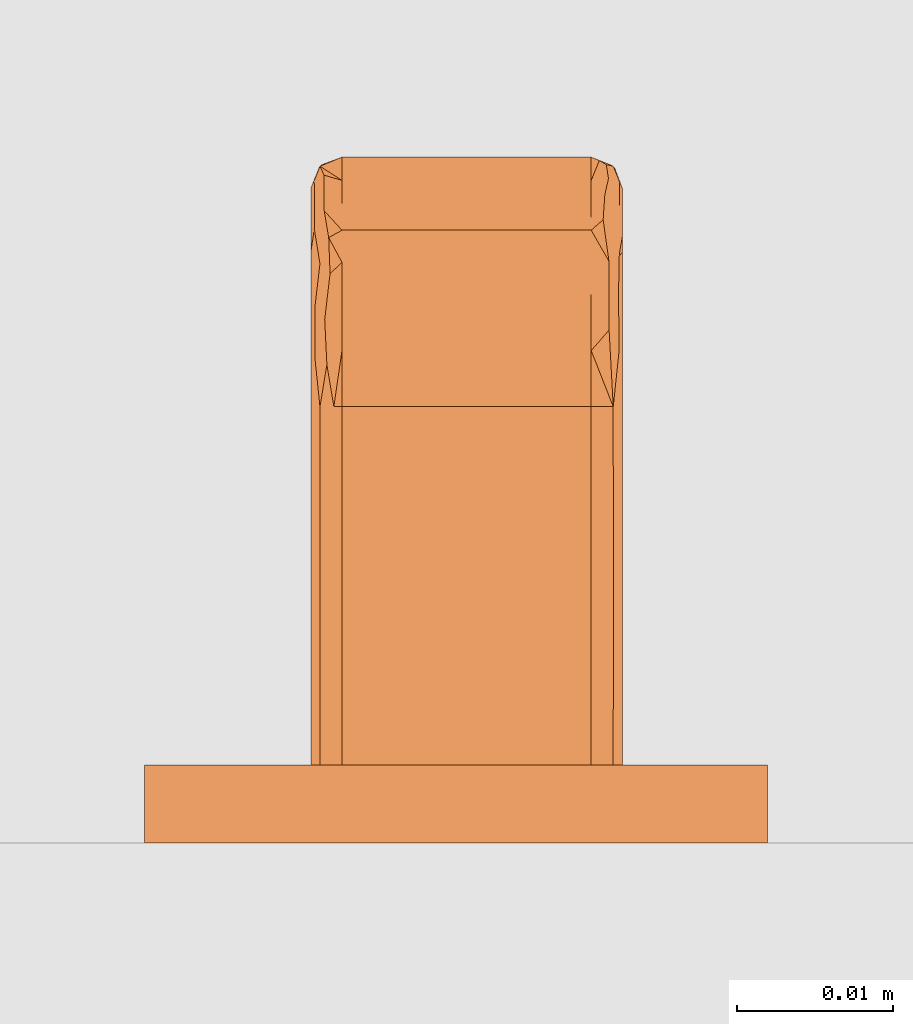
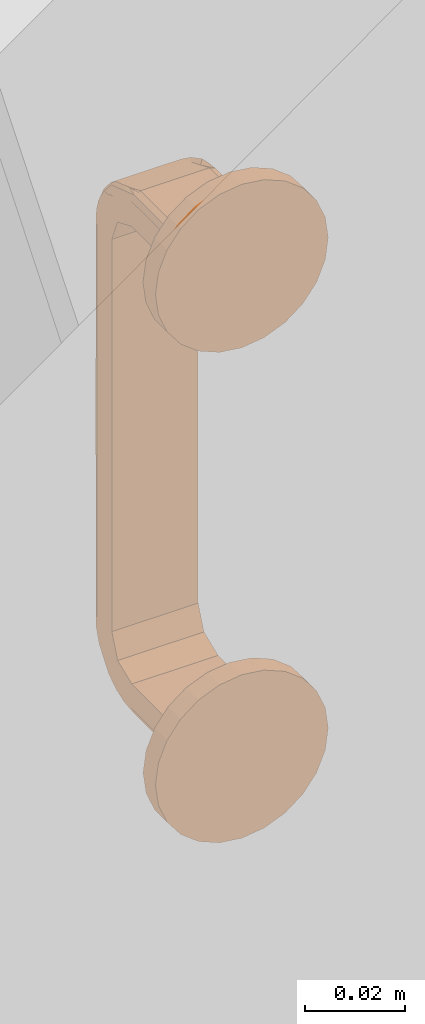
# One storey, part 47 of 67: 1 proxy.
"""IFC4 building model written with IfcOpenShell, lengths in millimetres."""

import ifcopenshell
import ifcopenshell.guid

model = None  # the IFC model being written
_history = None  # IfcOwnerHistory: only IFC2X3 demands one
_inside = {}  # id of a spatial element -> (the spatial element, [elements in it])
_under = {}  # id of a project, library or spatial element -> (it, [spatial elements below it])
_declared = {}  # id of a project -> (the project, [libraries it declares])
_typed = {}  # id of a type object -> (the type object, [elements of that type])
_made_of = {}  # id of a material, layer set ... -> (it, [elements and type objects made of it])


def new_model(schema):
    """Start an empty IFC model of exactly this schema.

    Asked for "IFC4X3", IfcOpenShell would pick the latest addendum, in which some entities
    have other attributes; the version numbers below select the first issue.
    IFC2X3 requires an IfcOwnerHistory on every rooted entity: one is made here for all.
    """
    global model, _history
    if schema == "IFC4X3":
        model = ifcopenshell.file(schema_version=(4, 3, 0, 0))
    else:
        model = ifcopenshell.file(schema=schema)
    _inside.clear()
    _under.clear()
    _declared.clear()
    _typed.clear()
    _made_of.clear()
    _history = None
    if model.schema == "IFC2X3":
        org = make("IfcOrganization", Name="unknown")
        user = make(
            "IfcPersonAndOrganization",
            ThePerson=make("IfcPerson", FamilyName="unknown"),
            TheOrganization=org,
        )
        app = make(
            "IfcApplication",
            ApplicationDeveloper=org,
            Version="unknown",
            ApplicationFullName="unknown",
            ApplicationIdentifier="unknown",
        )
        _history = make(
            "IfcOwnerHistory",
            OwningUser=user,
            OwningApplication=app,
            ChangeAction="ADDED",
            CreationDate=0,
        )
    return model


def make(cls, **values):
    """One entity of the class cls with the attributes given. An attribute that is None is left unset."""
    return model.create_entity(
        cls, **{name: value for name, value in values.items() if value is not None}
    )


def entity(cls, *values):
    """Any entity or typed value of the class cls, its attributes in the order of the schema. None: left unset."""
    e = model.create_entity(cls)
    for i, value in enumerate(values):
        if value is not None:
            e[i] = value
    return e


def rooted(cls, **values):
    """An entity with a GlobalId (a new one), such as an element, a storey or a relation."""
    return make(cls, GlobalId=ifcopenshell.guid.new(), OwnerHistory=_history, **values)


def si_unit(unit_type, name, prefix=None):
    """IfcSIUnit, for example si_unit("LENGTHUNIT", "METRE", prefix="MILLI")."""
    return make("IfcSIUnit", UnitType=unit_type, Prefix=prefix, Name=name)


def converted_unit(unit_type, name, factor, base, dimensions=None, offset=None):
    """IfcConversionBasedUnit, such as the inch: factor (a typed value) times the base unit."""
    return make(
        "IfcConversionBasedUnit"
        if offset is None
        else "IfcConversionBasedUnitWithOffset",
        ConversionOffset=offset,
        Dimensions=None
        if dimensions is None
        else entity("IfcDimensionalExponents", *dimensions),
        UnitType=unit_type,
        Name=name,
        ConversionFactor=make(
            "IfcMeasureWithUnit", ValueComponent=factor, UnitComponent=base
        ),
    )


def assignment(units):
    """IfcUnitAssignment: the units of a project."""
    return None if units is None else make("IfcUnitAssignment", Units=units)


def point(xyz):
    """IfcCartesianPoint."""
    return None if xyz is None else make("IfcCartesianPoint", Coordinates=xyz)


def direction(xyz):
    """IfcDirection."""
    return None if xyz is None else make("IfcDirection", DirectionRatios=xyz)


def frame(location, z_axis=None, x_axis=None):
    """IfcAxis2Placement3D, a coordinate frame: its origin and axes. An axis left out is left unset."""
    return make(
        "IfcAxis2Placement3D",
        Location=point(location),
        Axis=direction(z_axis),
        RefDirection=direction(x_axis),
    )


def origin():
    """The frame at (0, 0, 0) with its axes left unset."""
    return frame((0.0, 0.0, 0.0))


def place(relative_to, where):
    """IfcLocalPlacement: puts the frame where relative to a parent placement (None: the world)."""
    return make(
        "IfcLocalPlacement", PlacementRelTo=relative_to, RelativePlacement=where
    )


def context(
    kind, dimensions, precision=None, world=None, true_north=None, identifier=None
):
    """IfcGeometricRepresentationContext, for example the 3D "Model" context."""
    return make(
        "IfcGeometricRepresentationContext",
        ContextIdentifier=identifier,
        ContextType=kind,
        CoordinateSpaceDimension=dimensions,
        Precision=precision,
        WorldCoordinateSystem=world,
        TrueNorth=true_north,
    )


def subcontext(parent, identifier, kind, view, scale=None):
    """IfcGeometricRepresentationSubContext, for example "Body" below "Model"."""
    return make(
        "IfcGeometricRepresentationSubContext",
        ContextIdentifier=identifier,
        ContextType=kind,
        ParentContext=parent,
        TargetScale=scale,
        TargetView=view,
    )


def project(units=None, contexts=None):
    """IfcProject with its units and contexts."""
    return rooted(
        "IfcProject",
        Name="project",
        RepresentationContexts=contexts,
        UnitsInContext=assignment(units),
    )


def spatial(cls, under=None, at=None, **own):
    """A site, building, storey or space (cls), placed at a placement, below another one or the project."""
    s = rooted(cls, ObjectPlacement=at, **own)
    if under is not None:
        _under.setdefault(under.id(), (under, []))[1].append(s)
    return s


def point_list(points):
    """IfcCartesianPointList2D or 3D."""
    cls = (
        "IfcCartesianPointList2D" if len(points[0]) == 2 else "IfcCartesianPointList3D"
    )
    return make(cls, CoordList=points)


def polygons(points, faces, closed=None, point_numbers=None):
    """IfcPolygonalFaceSet: a face is its outer loop, then its inner loops; points numbered from 1."""
    made = []
    for loops in faces:
        if len(loops) == 1:
            made.append(make("IfcIndexedPolygonalFace", CoordIndex=loops[0]))
        else:
            made.append(
                make(
                    "IfcIndexedPolygonalFaceWithVoids",
                    CoordIndex=loops[0],
                    InnerCoordIndices=loops[1:],
                )
            )
    return make(
        "IfcPolygonalFaceSet",
        Coordinates=point_list(points),
        Closed=closed,
        Faces=made,
        PnIndex=point_numbers,
    )


def shape(context_of_items, identifier, shape_type, items):
    """IfcShapeRepresentation: the items that make up one representation, for example the "Body"."""
    return make(
        "IfcShapeRepresentation",
        ContextOfItems=context_of_items,
        RepresentationIdentifier=identifier,
        RepresentationType=shape_type,
        Items=items,
    )


def source(mapping_origin, context_of_items, identifier, shape_type, items):
    """IfcRepresentationMap: a shape defined once, which mapped items show again and again."""
    return make(
        "IfcRepresentationMap",
        MappingOrigin=mapping_origin,
        MappedRepresentation=shape(context_of_items, identifier, shape_type, items),
    )


def transform(
    local_origin,
    x_axis=None,
    y_axis=None,
    z_axis=None,
    scale=None,
    scale2=None,
    scale3=None,
    uniform=True,
):
    """IfcCartesianTransformationOperator3D, or its non-uniform kind. x_axis, y_axis, z_axis: its Axis1, 2, 3."""
    if uniform:
        return make(
            "IfcCartesianTransformationOperator3D",
            Axis1=direction(x_axis),
            Axis2=direction(y_axis),
            LocalOrigin=point(local_origin),
            Scale=scale,
            Axis3=direction(z_axis),
        )
    return make(
        "IfcCartesianTransformationOperator3DnonUniform",
        Axis1=direction(x_axis),
        Axis2=direction(y_axis),
        LocalOrigin=point(local_origin),
        Scale=scale,
        Axis3=direction(z_axis),
        Scale2=scale2,
        Scale3=scale3,
    )


def mapped(mapping_source, mapping_target):
    """IfcMappedItem: shows the shape of a source again, moved by a transform."""
    return make(
        "IfcMappedItem", MappingSource=mapping_source, MappingTarget=mapping_target
    )


def material(Name=None, Category=None):
    """IfcMaterial."""
    return make("IfcMaterial", Name=Name, Category=Category)


def made_of(thing, what):
    """Note that an element or type object is made of a material, layer set ...; save() writes the relation."""
    if what is not None:
        _made_of.setdefault(what.id(), (what, []))[1].append(thing)
    return thing


def type_object(cls, material=None, **own):
    """A type object (cls), such as IfcWallType, which elements share."""
    return made_of(rooted(cls, **own), material)


def type_shapes(of_type, sources):
    """Give a type object the sources (RepresentationMaps) that its elements show as mapped items."""
    of_type.RepresentationMaps = sources


def element(
    cls,
    number,
    at=None,
    inside=None,
    cuts=None,
    type_object=None,
    material=None,
    context=None,
    identifier="Body",
    shape_type=None,
    held_by="IfcProductDefinitionShape",
    body=None,
    shapes=None,
    **own,
):
    """One element of the class cls, such as IfcWall. Its Tag is "e" and its number.

    at: its placement. inside: the storey or other place that contains it. cuts: it is an
    opening in that element (IfcRelVoidsElement). A single representation is given by context,
    identifier, shape_type and body (its items); several are given by shapes. held_by: the class
    of the entity that holds the representations. save() writes the other relations.
    """
    e = rooted(cls, Tag="e%d" % number, ObjectPlacement=at, **own)
    if body is not None:
        shapes = [shape(context, identifier, shape_type, body)]
    if shapes is not None:
        e.Representation = make(held_by, Representations=shapes)
    if inside is not None:
        _inside.setdefault(inside.id(), (inside, []))[1].append(e)
    if cuts is not None:
        rooted(
            "IfcRelVoidsElement", RelatingBuildingElement=cuts, RelatedOpeningElement=e
        )
    if type_object is not None:
        _typed.setdefault(type_object.id(), (type_object, []))[1].append(e)
    return made_of(e, material)


def aggregate(whole, parts):
    """IfcRelAggregates: a whole, such as a stair, and the parts it consists of."""
    return rooted("IfcRelAggregates", RelatingObject=whole, RelatedObjects=parts)


def save(model, path):
    """Write the relations noted so far, then the file.

    IfcRelAggregates (storeys below a building ...), IfcRelContainedInSpatialStructure (elements
    in a storey), IfcRelDefinesByType, IfcRelAssociatesMaterial and IfcRelDeclares: one each for
    every whole, place, type object, material and project.
    """
    for whole, parts in _under.values():
        aggregate(whole, parts)
    for where, things in _inside.values():
        rooted(
            "IfcRelContainedInSpatialStructure",
            RelatedElements=things,
            RelatingStructure=where,
        )
    for kind, things in _typed.values():
        rooted("IfcRelDefinesByType", RelatedObjects=things, RelatingType=kind)
    for what, things in _made_of.values():
        rooted("IfcRelAssociatesMaterial", RelatedObjects=things, RelatingMaterial=what)
    for by, libraries in _declared.values():
        rooted("IfcRelDeclares", RelatingContext=by, RelatedDefinitions=libraries)
    model.write(path)


model = new_model("IFC4")

# Units and contexts
model_context = context("Model", 3, precision=0.01, world=origin(), true_north=direction((0.0, 1.0)))
body_context = subcontext(model_context, "Body", "Model", "MODEL_VIEW")
ifc_project = project(units=[si_unit("LENGTHUNIT", "METRE", prefix="MILLI"), si_unit("AREAUNIT", "SQUARE_METRE"), si_unit("VOLUMEUNIT", "CUBIC_METRE"), converted_unit("PLANEANGLEUNIT", "DEGREE", entity("IfcPlaneAngleMeasure", 0.017453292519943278), si_unit("PLANEANGLEUNIT", "RADIAN"), dimensions=[0, 0, 0, 0, 0, 0, 0])], contexts=[model_context])

# Site, building, storey, space
site_placement = place(None, origin())
site = spatial("IfcSite", under=ifc_project, at=site_placement, Name="Tomtens navn", CompositionType="ELEMENT")
building_placement = place(site_placement, origin())
building = spatial("IfcBuilding", under=site, at=building_placement, Name="Byggets navn", CompositionType="ELEMENT")
storey_placement = place(building_placement, origin())
storey = spatial("IfcBuildingStorey", under=building, at=storey_placement, Name="Level 01", CompositionType="ELEMENT", Elevation=2.1993652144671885e-25)
space_placement = place(storey_placement, origin())
space = spatial("IfcSpace", under=storey, at=space_placement, Name="102", CompositionType="ELEMENT", PredefinedType="NOTDEFINED")

# Proxy
ifc_material = material(Name="Handtag, vitt", Category="Unassigned")
building_element_proxy_type = type_object("IfcBuildingElementProxyType", Name="Handtag skåp1:Handtag skåp", PredefinedType="NOTDEFINED", material=ifc_material)
shared_shape = source(origin(), body_context, "Body", "Tessellation", [
    polygons([(8.670220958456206, 4.999999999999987, 4.021099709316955), (-7.329779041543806, 4.999999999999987, 4.021099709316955), (-8.743992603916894, 4.9999999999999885, 3.435313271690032), (-9.32977904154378, 4.999999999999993, 2.021099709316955), (-9.32977904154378, 5.0000000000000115, -4.0210997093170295), (10.67022095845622, 5.0000000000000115, -4.021099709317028), (10.67022095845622, 4.999999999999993, 2.0210997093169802), (10.084434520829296, 4.9999999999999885, 3.435313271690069), (10.67022095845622, 28.000000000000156, 2.0210997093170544), (10.084434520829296, 28.000000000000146, 3.435313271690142), (8.670220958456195, 28.000000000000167, 4.0210997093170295), (8.670220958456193, 15.654960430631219, 4.02109970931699), (10.67022095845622, 17.345040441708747, 2.02109970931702), (10.08659387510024, 16.21238630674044, 3.433150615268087), (10.67022095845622, 28.000000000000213, -4.021099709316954), (10.67022095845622, 33.64193450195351, -6.358065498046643), (10.67022095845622, 35.97890029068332, -11.999999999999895), (10.67022095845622, 35.97890029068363, -107.99999999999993), (10.67022095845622, 33.641934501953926, -113.64193450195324), (10.67022095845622, 28.000000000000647, -115.97890029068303), (10.67022095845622, 4.999999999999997, -115.97890029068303), (10.67022095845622, 4.999999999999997, -122.02109970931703), (10.67022095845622, 28.000000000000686, -122.02109970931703), (10.67022095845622, 37.914414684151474, -117.91441468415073), (10.67022095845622, 42.02109970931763, -107.99999999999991), (10.67022095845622, 42.0210997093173, -11.999999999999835), (10.67022095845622, 37.914414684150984, -2.085585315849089), (-9.32977904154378, 28.000000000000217, -4.021099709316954), (-9.32977904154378, 28.000000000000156, 2.02109970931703), (-9.32977904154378, 37.91441468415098, -2.085585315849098), (-9.32977904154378, 42.02109970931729, -11.999999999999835), (-9.32977904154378, 42.02109970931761, -107.99999999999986), (-9.32977904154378, 37.91441468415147, -117.91441468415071), (-9.32977904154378, 28.00000000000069, -122.02109970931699), (-9.32977904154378, 4.999999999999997, -122.021099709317), (-9.32977904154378, 4.999999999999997, -115.978900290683), (-9.32977904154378, 28.000000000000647, -115.97890029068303), (-9.32977904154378, 33.641934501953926, -113.64193450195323), (-9.32977904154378, 35.97890029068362, -107.99999999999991), (-9.32977904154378, 35.978900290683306, -11.999999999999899), (-9.32977904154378, 33.64193450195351, -6.358065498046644), (-7.329779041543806, 28.00000000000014, 4.0210997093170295), (-8.743992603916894, 28.000000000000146, 3.435313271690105), (-9.32977904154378, 15.654959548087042, 2.021099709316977), (-7.3297790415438, 17.34503999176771, 4.021099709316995), (-8.741829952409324, 16.21238644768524, 3.43747262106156), (10.084434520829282, 43.43531327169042, -11.999999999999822), (8.670220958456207, 44.021099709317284, -11.999999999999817), (8.670220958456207, 39.328628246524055, -0.6713717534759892), (10.67022095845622, 31.60126528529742, 0.5294067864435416), (8.670220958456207, 41.03771385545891, -4.797469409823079), (10.084434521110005, 40.40873190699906, -2.8200071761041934), (8.670220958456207, 35.20253058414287, 1.0377138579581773), (9.809043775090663, 37.34144424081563, 0.5752165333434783), (9.818751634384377, 32.92350079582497, 2.8642465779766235), (10.67022095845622, 39.96775719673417, -7.042792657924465), (10.377327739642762, 28.000000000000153, 2.7282064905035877), (8.670220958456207, 42.529406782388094, -8.398734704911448), (9.779150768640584, 42.65191997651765, -6.400304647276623), (10.431420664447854, 34.75591670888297, 1.357514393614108), (10.447049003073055, 37.64140257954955, -0.5884869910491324), (10.67022095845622, 34.7578399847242, -0.7780892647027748), (10.453824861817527, 31.52927433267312, 2.5026982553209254), (8.670220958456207, 31.601265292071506, 2.5294067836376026), (8.670220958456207, 40.18317105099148, -2.734420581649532), (9.435587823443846, 40.00295364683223, -1.6197407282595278), (9.543801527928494, 41.59747716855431, -3.9137042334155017), (10.67022095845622, 38.941085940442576, -4.564188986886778), (10.50224699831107, 40.95405539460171, -4.794062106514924), (10.477567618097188, 42.45420227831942, -8.47617064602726), (9.193272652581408, 43.80444460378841, -11.999999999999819), (9.638611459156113, 43.538770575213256, -9.303396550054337), (10.67022095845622, 40.99442845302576, -9.521396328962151), (-7.329779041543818, 44.021099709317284, -11.999999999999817), (-8.743992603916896, 43.43531327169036, -11.999999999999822), (-7.329779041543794, 39.328628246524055, -0.6713717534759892), (-7.329779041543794, 35.20253057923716, 1.0377138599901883), (-8.743992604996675, 37.179992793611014, 0.40873192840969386), (-9.32977904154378, 40.52940677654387, -8.398734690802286), (-7.329779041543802, 41.03771385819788, -4.797469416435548), (-8.468601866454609, 40.57521654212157, -2.6585557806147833), (-8.47830971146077, 42.864246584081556, -7.076499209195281), (-9.32977904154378, 32.95720734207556, -0.03224280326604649), (-9.036885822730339, 42.728206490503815, -11.999999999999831), (-7.329779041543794, 31.601265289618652, 2.529406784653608), (-8.43870885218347, 33.59969531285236, 2.6519199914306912), (-9.090978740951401, 41.357514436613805, -5.244083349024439), (-9.106607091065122, 39.41151304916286, -2.358597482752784), (-9.32977904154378, 39.22191073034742, -5.242160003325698), (-9.113382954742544, 42.502698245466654, -8.470725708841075), (-7.32977904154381, 42.52940678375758, -8.398734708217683), (-7.329779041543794, 37.26557941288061, 0.18317105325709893), (-8.095145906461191, 36.54048464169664, 1.37463273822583), (-8.18279176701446, 38.85536792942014, -0.47819170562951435), (-9.32977904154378, 35.43581101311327, -1.0589140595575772), (-7.852830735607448, 28.00000000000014, 3.8044446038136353), (-8.29816953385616, 30.69660343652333, 3.5387705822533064), (-9.060718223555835, 31.048754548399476, 2.7104148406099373), (-9.074370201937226, 34.340507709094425, 1.5930015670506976), (-9.32977904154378, 30.478603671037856, 0.9944284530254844), (-7.32977904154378, 33.664314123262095, 1.6748639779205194), (8.670220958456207, 33.664314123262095, 1.6748639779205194), (8.670220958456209, 30.748770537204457, 2.882521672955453), (-7.32977904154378, 41.67486397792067, -6.335685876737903), (8.670220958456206, 41.67486397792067, -6.335685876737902), (8.670220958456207, 40.50174611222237, -3.503528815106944), (-7.32977904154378, 36.496471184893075, 0.5017461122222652), (8.670220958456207, 36.496471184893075, 0.5017461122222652), (-7.32977904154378, 30.83215706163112, 2.847981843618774), (8.670220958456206, 42.882521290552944, -9.251228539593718), (-7.32977904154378, 42.84798184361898, -9.167842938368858), (-7.32977904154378, 40.50174611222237, -3.503528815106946), (10.084434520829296, 43.435313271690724, -107.99999999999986), (8.670220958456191, 44.0210997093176, -107.99999999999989), (10.67022095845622, 42.02109970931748, -61.380159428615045), (8.670220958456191, 44.021099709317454, -60.0000005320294), (8.670220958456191, 44.02109970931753, -83.30992070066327), (10.67022095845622, 42.021099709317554, -84.69007971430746), (8.670220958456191, 44.021099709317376, -36.690079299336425), (10.67022095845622, 42.02109970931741, -36.690079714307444), (10.67022095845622, 42.021099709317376, -24.34503985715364), (8.670220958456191, 44.02109970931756, -95.65496088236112), (8.670220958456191, 44.02109970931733, -24.34504018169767), (10.67022095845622, 42.021099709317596, -95.65496014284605), (10.084434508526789, 43.43531328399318, -90.17251993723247), (10.67022095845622, 42.02109970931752, -73.035119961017), (10.043884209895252, 43.4747328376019, -67.20763959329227), (10.084434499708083, 43.435313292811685, -30.517560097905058), (10.084434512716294, 43.435313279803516, -43.72292802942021), (10.67022095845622, 42.021099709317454, -49.03511957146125), (10.049878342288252, 43.469044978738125, -55.46284370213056), (8.67022095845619, 44.02109970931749, -71.65496114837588), (10.18815291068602, 43.32336027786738, -78.66752152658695), (8.670220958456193, 44.02109970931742, -48.34503991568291), (-7.329779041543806, 44.0210997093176, -107.99999999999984), (-8.743992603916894, 43.43531327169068, -107.99999999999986), (-7.3297790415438, 44.021099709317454, -61.38015981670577), (-9.32977904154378, 42.021099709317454, -59.999999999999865), (-9.32977904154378, 42.02109970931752, -83.30992051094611), (-7.329779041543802, 44.02109970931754, -84.69008022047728), (-9.32977904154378, 42.02109970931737, -36.69007991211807), (-7.329779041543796, 44.021099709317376, -36.69007990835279), (-7.329779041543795, 44.02109970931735, -24.345039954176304), (-9.32977904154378, 42.02109970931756, -95.65496025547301), (-9.32977904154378, 42.02109970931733, -24.345040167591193), (-7.329779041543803, 44.021099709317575, -95.65496067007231), (-8.743992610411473, 43.43531326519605, -90.17252002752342), (-7.3297790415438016, 44.0210997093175, -73.03512001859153), (-8.783412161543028, 43.39476296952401, -67.2076399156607), (-8.743992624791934, 43.4353132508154, -30.517560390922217), (-8.74399260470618, 43.43531327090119, -43.72292838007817), (-7.329779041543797, 44.02109970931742, -49.03511986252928), (-8.777724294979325, 43.40075710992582, -55.46284405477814), (-9.32977904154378, 42.02109970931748, -71.65496025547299), (-8.632039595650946, 43.53903167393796, -78.6675217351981), (-9.32977904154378, 42.02109970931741, -48.345039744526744), (10.08443452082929, 28.0000000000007, -123.43531327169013), (8.670220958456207, 28.000000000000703, -124.02109970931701), (8.670220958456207, 39.32862824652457, -119.32862824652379), (10.67022095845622, 40.52940678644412, -111.60126528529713), (8.670220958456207, 35.202530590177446, -121.03771385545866), (10.084434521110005, 37.179992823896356, -120.4087319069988), (8.670220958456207, 41.03771385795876, -115.20253058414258), (9.809043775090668, 40.575216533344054, -117.34144424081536), (9.818751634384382, 42.864246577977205, -112.9235007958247), (10.67022095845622, 32.95720734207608, -119.96775719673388), (10.377327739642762, 42.728206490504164, -107.99999999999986), (8.670220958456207, 31.601265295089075, -122.52940678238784), (9.779150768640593, 33.5996953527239, -122.65191997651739), (10.431420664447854, 41.357514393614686, -114.7559167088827), (10.447049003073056, 39.41151300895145, -117.64140257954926), (10.67022095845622, 39.2219107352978, -114.75783998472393), (10.453824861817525, 42.50269825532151, -111.52927433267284), (8.670220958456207, 42.52940678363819, -111.60126529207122), (8.670220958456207, 37.26557941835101, -120.18317105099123), (9.43558782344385, 38.38025927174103, -120.00295364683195), (9.543801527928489, 36.08629576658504, -121.59747716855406), (10.67022095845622, 35.435811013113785, -118.9410859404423), (10.50224699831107, 35.20593789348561, -120.95405539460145), (10.477567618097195, 31.523829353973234, -122.45420227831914), (9.193272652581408, 28.000000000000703, -123.80444460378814), (9.638611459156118, 30.696603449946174, -123.538770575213), (10.67022095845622, 30.47860367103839, -120.99442845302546), (-7.329779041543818, 28.000000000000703, -124.02109970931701), (-8.743992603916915, 28.0000000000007, -123.43531327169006), (-7.329779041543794, 39.32862824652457, -119.32862824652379), (-7.329779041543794, 41.03771385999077, -115.20253057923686), (-8.743992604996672, 40.40873192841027, -117.17999279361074), (-9.32977904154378, 31.601265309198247, -120.52940677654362), (-7.329779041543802, 35.20253058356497, -121.03771385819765), (-8.468601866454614, 37.34144421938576, -120.57521654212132), (-8.478309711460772, 32.92350079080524, -122.8642465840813), (-9.32977904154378, 39.967757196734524, -112.95720734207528), (-9.036885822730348, 28.000000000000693, -122.72820649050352), (-7.329779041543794, 42.529406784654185, -111.60126528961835), (-8.438708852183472, 42.65191999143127, -113.59969531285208), (-9.090978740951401, 34.75591665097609, -121.35751443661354), (-9.106607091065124, 37.64140251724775, -119.41151304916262), (-9.32977904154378, 34.75783999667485, -119.22191073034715), (-9.113382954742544, 31.529274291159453, -122.50269824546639), (-7.329779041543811, 31.601265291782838, -122.52940678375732), (-7.329779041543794, 40.18317105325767, -117.26557941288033), (-8.095145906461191, 41.37463273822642, -116.54048464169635), (-8.182791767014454, 39.52180829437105, -118.85536792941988), (-9.32977904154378, 38.941085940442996, -115.435811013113), (-7.852830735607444, 43.804444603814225, -107.99999999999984), (-8.298169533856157, 43.53877058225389, -110.69660343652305), (-9.060718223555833, 42.710414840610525, -111.04875454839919), (-9.074370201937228, 41.59300156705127, -114.34050770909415), (-9.32977904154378, 40.99442845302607, -110.47860367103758), (-7.32977904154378, 41.6748639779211, -113.66431412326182), (8.670220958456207, 41.6748639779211, -113.66431412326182), (8.670220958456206, 42.88252167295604, -110.74877053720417), (-7.32977904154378, 33.66431412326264, -121.67486397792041), (8.670220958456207, 33.66431412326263, -121.67486397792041), (8.670220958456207, 36.4964711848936, -120.50174611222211), (-7.32977904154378, 40.50174611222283, -116.4964711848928), (8.670220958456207, 40.50174611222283, -116.4964711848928), (-7.32977904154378, 42.84798184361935, -110.83215706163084), (8.670220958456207, 30.748771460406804, -122.88252129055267), (-7.329779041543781, 30.83215706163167, -122.84798184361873), (-7.32977904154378, 36.49647118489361, -120.50174611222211), (8.670220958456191, 4.99999999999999, -124.021099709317), (10.084434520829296, 4.99999999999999, -123.43531327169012), (-8.743992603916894, 4.99999999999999, -123.43531327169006), (-7.32977904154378, 4.99999999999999, -124.02109970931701), (8.670220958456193, 17.34504139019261, -124.021099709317), (10.67022095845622, 15.65496022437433, -122.02109970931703), (10.08659387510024, 16.787613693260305, -123.43315061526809), (-9.32977904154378, 17.34504010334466, -122.02109970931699), (-7.3297790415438, 15.6549594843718, -124.021099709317), (-8.741829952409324, 16.787613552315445, -123.43747262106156)], [[[4, 5, 6, 7, 8, 1, 2, 3]], [[18, 17, 40, 39]], [[226, 223, 224, 22, 21, 36, 35, 225]], [[13, 9, 57, 10]], [[14, 13, 10]], [[11, 12, 14]], [[1, 8, 12]], [[12, 8, 14]], [[13, 14, 7]], [[14, 8, 7]], [[14, 10, 11]], [[6, 15, 16, 17, 18, 19, 20, 21, 22, 228, 23, 183, 166, 178, 24, 172, 160, 25, 124, 118, 126, 115, 130, 120, 121, 26, 73, 56, 68, 27, 62, 50, 9, 13, 7]], [[15, 6, 5, 28]], [[158, 227, 223, 226, 231, 184]], [[36, 37, 38, 39, 40, 41, 28, 5, 4, 44, 29, 100, 83, 95, 30, 89, 79, 31, 145, 141, 156, 138, 154, 139, 144, 32, 210, 193, 205, 33, 199, 189, 34, 230, 35]], [[45, 42, 96, 43]], [[46, 45, 43]], [[29, 44, 46]], [[4, 3, 44]], [[44, 3, 46]], [[45, 46, 2]], [[46, 3, 2]], [[46, 43, 29]], [[2, 1, 12, 11, 42, 45]], [[21, 20, 37, 36]], [[60, 62, 61]], [[68, 56, 69]], [[66, 65, 49]], [[55, 54, 53]], [[59, 58, 105, 51]], [[67, 51, 106, 65]], [[69, 56, 70]], [[50, 60, 63]], [[55, 64, 10]], [[59, 67, 52]], [[54, 49, 108, 53]], [[72, 71, 58]], [[54, 55, 60]], [[69, 61, 68]], [[66, 52, 67]], [[68, 61, 27]], [[55, 10, 63]], [[63, 10, 57, 9]], [[71, 48, 110, 58]], [[70, 26, 47]], [[54, 60, 61]], [[63, 9, 50]], [[54, 61, 52]], [[27, 61, 62]], [[60, 50, 62]], [[63, 60, 55]], [[10, 64, 103, 11]], [[55, 53, 102, 64]], [[66, 54, 52]], [[66, 49, 54]], [[66, 67, 65]], [[67, 59, 51]], [[69, 52, 61]], [[69, 59, 52]], [[59, 69, 70]], [[70, 72, 59]], [[73, 26, 70, 56]], [[47, 71, 72]], [[47, 72, 70]], [[59, 72, 58]], [[15, 28, 41, 16]], [[41, 40, 17, 16]], [[96, 42, 109, 85]], [[79, 87, 90]], [[86, 85, 101, 77]], [[86, 99, 98]], [[93, 77, 107, 92]], [[81, 82, 87]], [[80, 82, 81]], [[78, 95, 99]], [[87, 89, 88]], [[78, 99, 86]], [[93, 94, 78]], [[82, 91, 75]], [[81, 76, 112, 80]], [[94, 93, 92]], [[88, 78, 94]], [[95, 88, 30]], [[82, 75, 90]], [[90, 75, 84, 31]], [[43, 97, 98]], [[86, 98, 97]], [[81, 87, 88]], [[90, 31, 79]], [[94, 81, 88]], [[30, 88, 89]], [[87, 79, 89]], [[90, 87, 82]], [[75, 91, 111, 74]], [[82, 80, 104, 91]], [[93, 86, 77]], [[93, 78, 86]], [[94, 76, 81]], [[76, 94, 92]], [[78, 88, 95]], [[43, 96, 97]], [[97, 96, 85]], [[86, 97, 85]], [[98, 29, 43]], [[99, 95, 83, 100]], [[100, 98, 99]], [[100, 29, 98]], [[42, 11, 103, 64, 102, 53, 108, 49, 76, 92, 107, 77, 101, 85, 109]], [[105, 58, 110, 48, 74, 111, 91, 104, 80, 112, 76, 49, 65, 106, 51]], [[47, 26, 121, 120, 130, 129, 128]], [[124, 25, 167, 113, 125, 118]], [[118, 133, 126]], [[127, 115, 126]], [[123, 48, 71, 47, 128, 129, 134, 119]], [[113, 114, 122, 117, 125]], [[129, 130, 131]], [[115, 131, 130]], [[133, 127, 126]], [[132, 116, 127]], [[125, 117, 133]], [[116, 134, 131]], [[127, 116, 131]], [[127, 131, 115]], [[134, 129, 131]], [[132, 127, 133]], [[117, 132, 133]], [[125, 133, 118]], [[75, 74, 143, 142, 152, 151, 150]], [[146, 135, 206, 136, 147, 140]], [[140, 155, 148]], [[149, 137, 148]], [[145, 31, 84, 75, 150, 151, 156, 141]], [[136, 32, 144, 139, 147]], [[151, 152, 153]], [[137, 153, 152]], [[155, 149, 148]], [[154, 138, 149]], [[147, 139, 155]], [[138, 156, 153]], [[149, 138, 153]], [[149, 153, 137]], [[156, 151, 153]], [[154, 149, 155]], [[139, 154, 155]], [[147, 155, 140]], [[74, 48, 123, 119, 134, 116, 132, 117, 122, 114, 135, 146, 140, 148, 137, 152, 142, 143]], [[170, 172, 171]], [[178, 166, 179]], [[176, 175, 159]], [[165, 164, 163]], [[169, 168, 215, 161]], [[177, 161, 216, 175]], [[179, 166, 180]], [[160, 170, 173]], [[165, 174, 113]], [[169, 177, 162]], [[164, 159, 218, 163]], [[182, 181, 168]], [[164, 165, 170]], [[179, 171, 178]], [[176, 162, 177]], [[178, 171, 24]], [[165, 113, 173]], [[173, 113, 167, 25]], [[181, 158, 220, 168]], [[180, 23, 157]], [[164, 170, 171]], [[173, 25, 160]], [[164, 171, 162]], [[24, 171, 172]], [[170, 160, 172]], [[173, 170, 165]], [[113, 174, 213, 114]], [[165, 163, 212, 174]], [[176, 164, 162]], [[176, 159, 164]], [[176, 177, 175]], [[177, 169, 161]], [[179, 162, 171]], [[179, 169, 162]], [[169, 179, 180]], [[180, 182, 169]], [[183, 23, 180, 166]], [[157, 181, 182]], [[157, 182, 180]], [[169, 182, 168]], [[18, 39, 38, 19]], [[38, 37, 20, 19]], [[206, 135, 219, 195]], [[189, 197, 200]], [[196, 195, 211, 187]], [[196, 209, 208]], [[203, 187, 217, 202]], [[191, 192, 197]], [[190, 192, 191]], [[188, 205, 209]], [[197, 199, 198]], [[188, 209, 196]], [[203, 204, 188]], [[192, 201, 185]], [[191, 186, 222, 190]], [[204, 203, 202]], [[188, 196, 203]], [[205, 198, 33]], [[192, 185, 200]], [[200, 185, 194, 34]], [[136, 207, 208]], [[196, 208, 207]], [[191, 197, 198]], [[200, 34, 189]], [[204, 191, 198]], [[33, 198, 199]], [[197, 189, 199]], [[200, 197, 192]], [[185, 201, 221, 184]], [[192, 190, 214, 201]], [[187, 203, 196]], [[188, 204, 198]], [[204, 186, 191]], [[186, 204, 202]], [[188, 198, 205]], [[136, 206, 207]], [[207, 206, 195]], [[196, 207, 195]], [[208, 32, 136]], [[209, 205, 193, 210]], [[210, 208, 209]], [[210, 32, 208]], [[135, 114, 213, 174, 212, 163, 218, 159, 186, 202, 217, 187, 211, 195, 219]], [[215, 168, 220, 158, 184, 221, 201, 214, 190, 222, 186, 159, 175, 216, 161]], [[22, 224, 228]], [[229, 228, 224]], [[223, 227, 229]], [[227, 158, 181, 157]], [[227, 157, 229]], [[228, 229, 23]], [[229, 157, 23]], [[229, 224, 223]], [[226, 225, 231]], [[232, 231, 225]], [[35, 230, 232]], [[230, 34, 194, 185]], [[230, 185, 232]], [[231, 232, 184]], [[232, 185, 184]], [[232, 225, 35]]], closed=True),
    polygons([(-20.00000000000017, 4.999999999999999, 4.9806020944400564e-15), (-19.318516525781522, 4.999999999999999, 5.176380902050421), (-17.320508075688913, 4.999999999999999, 9.999999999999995), (-14.142135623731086, 4.999999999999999, 14.142135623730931), (-10.000000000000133, 4.999999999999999, 17.320508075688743), (-5.176380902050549, 4.999999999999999, 19.318516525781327), (-1.3958834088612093e-13, 4.999999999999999, 19.99999999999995), (5.176380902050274, 4.999999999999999, 19.31851652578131), (9.99999999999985, 4.999999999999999, 17.32050807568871), (14.142135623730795, 4.999999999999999, 14.142135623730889), (17.32050807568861, 4.999999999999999, 9.999999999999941), (19.3185165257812, 4.999999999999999, 5.17638090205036), (19.999999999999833, 4.999999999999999, -1.622393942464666e-13), (19.318516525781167, 4.999999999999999, -5.176380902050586), (17.320508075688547, 4.999999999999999, -10.000000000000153), (14.142135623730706, 4.999999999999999, -14.142135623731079), (9.999999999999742, 4.999999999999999, -17.320508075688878), (5.176380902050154, 4.999999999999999, -19.31851652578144), (-2.580269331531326e-13, 4.999999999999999, -20.00000000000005), (-5.176380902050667, 4.999999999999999, -19.318516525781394), (-10.000000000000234, 4.999999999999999, -17.320508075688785), (-14.14213562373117, 4.999999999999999, -14.142135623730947), (-17.320508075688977, 4.999999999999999, -9.999999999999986), (-19.318516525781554, 4.999999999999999, -5.176380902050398), (-20.00000000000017, 0.0, 1.386238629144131e-14), (-19.318516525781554, 0.0, -5.176380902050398), (-17.320508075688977, 0.0, -9.999999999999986), (-14.14213562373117, 0.0, -14.142135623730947), (-10.000000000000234, 0.0, -17.320508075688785), (-5.176380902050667, 0.0, -19.318516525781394), (-2.580269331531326e-13, 0.0, -20.00000000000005), (5.176380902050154, 0.0, -19.31851652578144), (9.999999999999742, 0.0, -17.320508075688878), (14.142135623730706, 0.0, -14.142135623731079), (17.320508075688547, 0.0, -10.000000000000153), (19.318516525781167, 0.0, -5.176380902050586), (19.999999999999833, 0.0, -5.075939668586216e-14), (19.3185165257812, 0.0, 5.17638090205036), (17.32050807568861, 0.0, 9.999999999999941), (14.142135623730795, 0.0, 14.142135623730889), (9.99999999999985, 0.0, 17.32050807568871), (5.176380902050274, 0.0, 19.31851652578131), (-1.3958834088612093e-13, 0.0, 19.99999999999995), (-5.176380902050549, 0.0, 19.318516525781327), (-10.000000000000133, 0.0, 17.320508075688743), (-14.142135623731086, 0.0, 14.142135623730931), (-17.320508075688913, 0.0, 9.999999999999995), (-19.318516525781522, 0.0, 5.176380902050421)], [[[16, 17, 18, 19, 20, 21, 22, 23, 24, 1, 2, 3, 4, 5, 6, 7, 8, 9, 10, 11, 12, 13, 14, 15]], [[41, 42, 43, 44, 45, 46, 47, 48, 25, 26, 27, 28, 29, 30, 31, 32, 33, 34, 35, 36, 37, 38, 39, 40]], [[25, 1, 24, 26]], [[26, 24, 23, 27]], [[29, 28, 22, 21]], [[22, 28, 27, 23]], [[30, 29, 21, 20]], [[30, 20, 19, 31]], [[31, 19, 18, 32]], [[32, 18, 17, 33]], [[35, 34, 16, 15]], [[16, 34, 33, 17]], [[36, 35, 15, 14]], [[36, 14, 13, 37]], [[37, 13, 12, 38]], [[38, 12, 11, 39]], [[41, 40, 10, 9]], [[10, 40, 39, 11]], [[42, 41, 9, 8]], [[42, 8, 7, 43]], [[43, 7, 6, 44]], [[44, 6, 5, 45]], [[47, 46, 4, 3]], [[4, 46, 45, 5]], [[48, 47, 3, 2]], [[48, 2, 1, 25]]], closed=True),
    polygons([(-20.000000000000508, 4.999999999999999, -120.00000000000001), (-19.31851652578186, 4.999999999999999, -114.82361909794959), (-17.320508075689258, 4.999999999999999, -110.00000000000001), (-14.142135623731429, 4.999999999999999, -105.85786437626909), (-10.000000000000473, 4.999999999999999, -102.67949192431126), (-5.176380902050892, 4.999999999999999, -100.68148347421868), (-4.779843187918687e-13, 4.999999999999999, -100.00000000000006), (5.176380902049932, 4.999999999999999, -100.6814834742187), (9.99999999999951, 4.999999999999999, -102.6794919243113), (14.142135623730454, 4.999999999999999, -105.85786437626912), (17.32050807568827, 4.999999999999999, -110.00000000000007), (19.31851652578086, 4.999999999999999, -114.82361909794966), (19.999999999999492, 4.999999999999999, -120.00000000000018), (19.318516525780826, 4.999999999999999, -125.1763809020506), (17.320508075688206, 4.999999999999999, -130.00000000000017), (14.142135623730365, 4.999999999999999, -134.1421356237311), (9.999999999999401, 4.999999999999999, -137.3205080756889), (5.176380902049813, 4.999999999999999, -139.31851652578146), (-6.006528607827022e-13, 4.999999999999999, -140.00000000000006), (-5.176380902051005, 4.999999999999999, -139.3185165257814), (-10.000000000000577, 4.999999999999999, -137.3205080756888), (-14.142135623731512, 4.999999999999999, -134.14213562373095), (-17.32050807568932, 4.999999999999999, -130.0), (-19.31851652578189, 4.999999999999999, -125.17638090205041), (-20.000000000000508, 0.0, -120.0), (-19.31851652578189, 0.0, -125.17638090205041), (-17.32050807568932, 0.0, -130.0), (-14.142135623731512, 0.0, -134.14213562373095), (-10.000000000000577, 0.0, -137.3205080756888), (-5.176380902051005, 0.0, -139.3185165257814), (-6.006528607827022e-13, 0.0, -140.00000000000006), (5.176380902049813, 0.0, -139.31851652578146), (9.999999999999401, 0.0, -137.3205080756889), (14.142135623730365, 0.0, -134.1421356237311), (17.320508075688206, 0.0, -130.00000000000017), (19.318516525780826, 0.0, -125.1763809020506), (19.999999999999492, 0.0, -120.00000000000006), (19.31851652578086, 0.0, -114.82361909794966), (17.32050807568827, 0.0, -110.00000000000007), (14.142135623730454, 0.0, -105.85786437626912), (9.99999999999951, 0.0, -102.6794919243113), (5.176380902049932, 0.0, -100.6814834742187), (-4.779843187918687e-13, 0.0, -100.00000000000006), (-5.176380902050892, 0.0, -100.68148347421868), (-10.000000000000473, 0.0, -102.67949192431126), (-14.142135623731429, 0.0, -105.85786437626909), (-17.320508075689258, 0.0, -110.00000000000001), (-19.31851652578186, 0.0, -114.82361909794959)], [[[17, 18, 19, 20, 21, 22, 23, 24, 1, 2, 3, 4, 5, 6, 7, 8, 9, 10, 11, 12, 13, 14, 15, 16]], [[41, 42, 43, 44, 45, 46, 47, 48, 25, 26, 27, 28, 29, 30, 31, 32, 33, 34, 35, 36, 37, 38, 39, 40]], [[25, 1, 24, 26]], [[26, 24, 23, 27]], [[29, 28, 22, 21]], [[22, 28, 27, 23]], [[30, 29, 21, 20]], [[30, 20, 19, 31]], [[31, 19, 18, 32]], [[32, 18, 17, 33]], [[35, 34, 16, 15]], [[16, 34, 33, 17]], [[36, 35, 15, 14]], [[36, 14, 13, 37]], [[37, 13, 12, 38]], [[38, 12, 11, 39]], [[41, 40, 10, 9]], [[10, 40, 39, 11]], [[42, 41, 9, 8]], [[42, 8, 7, 43]], [[43, 7, 6, 44]], [[44, 6, 5, 45]], [[47, 46, 4, 3]], [[4, 46, 45, 5]], [[48, 47, 3, 2]], [[48, 2, 1, 25]]], closed=True),
])
type_shapes(building_element_proxy_type, [shared_shape])
proxy_placement = place(space_placement, frame((67571.85352810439, 18543.466456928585, 1120.0)))
element("IfcBuildingElementProxy", 1, at=proxy_placement, inside=space, type_object=building_element_proxy_type, material=ifc_material, Name="Handtag skåp1:Handtag skåp", PredefinedType="NOTDEFINED", context=body_context, shape_type="MappedRepresentation", body=[
    mapped(shared_shape, transform((0.0, 0.0, 0.0), scale=1.0)),
])

save(model, "model.ifc")
